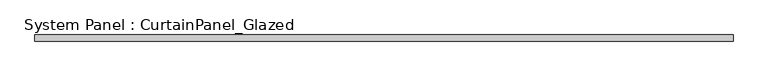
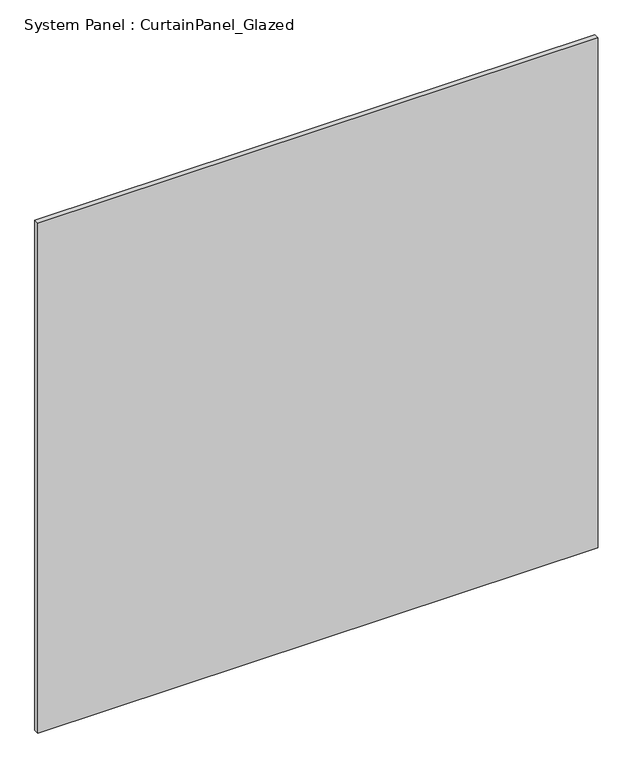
"""IFC4 building model written with IfcOpenShell, lengths in millimetres: plate geometry, System Panel : CurtainPanel_Glazed."""

from ifc_helpers import new_model, si_unit, origin, origin_with_axes, place, context, project, spatial, polyline, outline, extrude, source, transform, mapped, element, save


def system_panel_curtainpanel_glazed_b0e91fb3(model_context):
    return source(origin(), model_context, "Body", "SweptSolid", [
        extrude(outline(polyline([(1325.9999999, -12.5), (-1325.9999999, -12.5), (-1325.9999999, 12.5), (1325.9999999, 12.5), (1325.9999999, -12.5)])), origin_with_axes(), (0.0, 0.0, 1.0), 2550.0),
    ])


if __name__ == "__main__":
    model = new_model("IFC4")
    model_context = context("Model", 3, world=origin())
    ifc_project = project(units=[si_unit("LENGTHUNIT", "METRE", prefix="MILLI")], contexts=[model_context])
    site = spatial("IfcSite", under=ifc_project)
    building = spatial("IfcBuilding", under=site)
    placement = place(None, origin())
    system_panel_curtainpanel_glazed_shape = system_panel_curtainpanel_glazed_b0e91fb3(model_context)
    element("IfcPlate", 1, ObjectType="System Panel : CurtainPanel_Glazed", at=placement, inside=building, context=model_context, shape_type="MappedRepresentation", body=[
        mapped(system_panel_curtainpanel_glazed_shape, transform((0.0, 0.0, 0.0), x_axis=(1.0, 0.0, 0.0), y_axis=(0.0, 1.0, 0.0), z_axis=(0.0, 0.0, 1.0))),
    ])
    save(model, "model.ifc")
